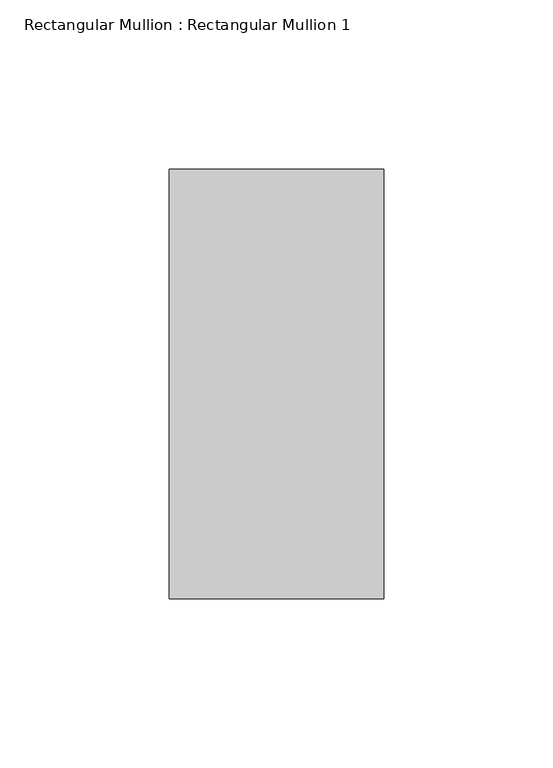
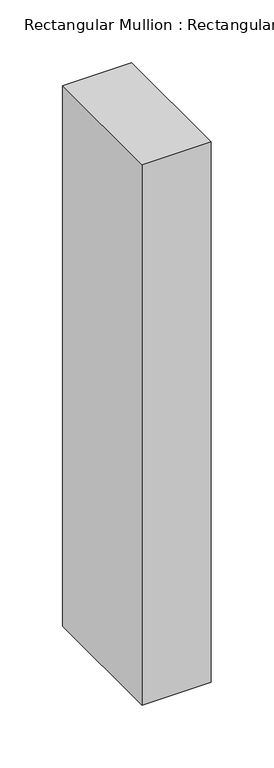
"""IFC4 building model written with IfcOpenShell, lengths in millimetres: member geometry, Rectangular Mullion : Rectangular Mullion 1."""

from ifc_helpers import new_model, si_unit, frame, origin, place, context, project, spatial, polyline, outline, extrude, source, transform, mapped, element, save


def rectangular_mullion_rectangular_mullion_1_d8cc73e0(model_context):
    return source(origin(), model_context, "Body", "SweptSolid", [
        extrude(outline(polyline([(31.75, 63.5), (31.75, -63.5), (-31.75, -63.5), (-31.75, 63.5), (31.75, 63.5)])), frame((0.0, 0.0, -526.295196), z_axis=(0.0, 0.0, 1.0), x_axis=(1.0, 0.0, 0.0)), (0.0, 0.0, 1.0), 526.295196),
    ])


if __name__ == "__main__":
    model = new_model("IFC4")
    model_context = context("Model", 3, world=origin())
    ifc_project = project(units=[si_unit("LENGTHUNIT", "METRE", prefix="MILLI")], contexts=[model_context])
    site = spatial("IfcSite", under=ifc_project)
    building = spatial("IfcBuilding", under=site)
    placement = place(None, origin())
    rectangular_mullion_rectangular_mullion_1_shape = rectangular_mullion_rectangular_mullion_1_d8cc73e0(model_context)
    element("IfcMember", 1, ObjectType="Rectangular Mullion : Rectangular Mullion 1", at=placement, inside=building, context=model_context, shape_type="MappedRepresentation", body=[
        mapped(rectangular_mullion_rectangular_mullion_1_shape, transform((0.0, 0.0, 0.0), x_axis=(1.0, 0.0, 0.0), y_axis=(0.0, 1.0, 0.0), z_axis=(0.0, 0.0, 1.0))),
    ])
    save(model, "model.ifc")
